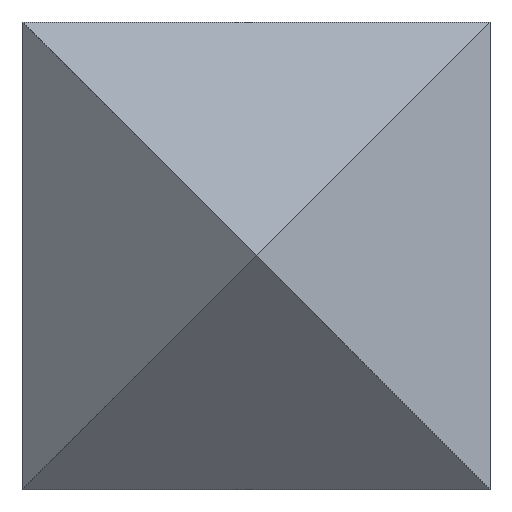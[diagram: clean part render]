
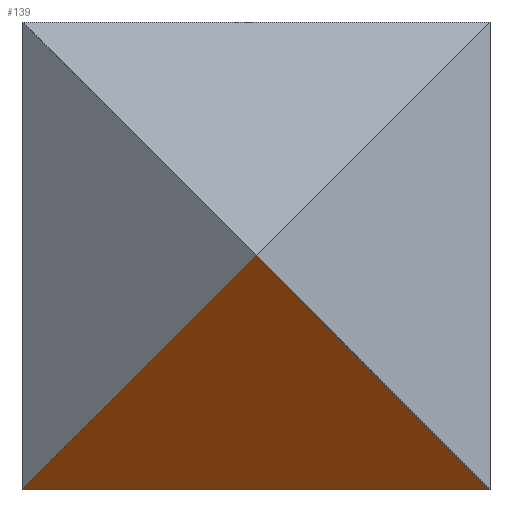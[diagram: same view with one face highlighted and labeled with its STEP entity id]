
A CAD part, top view. The second image highlights one B-rep face of the part: STEP entity #139.
In plain terms, the highlighted planar face has unit normal (0, -0.642, 0.767).
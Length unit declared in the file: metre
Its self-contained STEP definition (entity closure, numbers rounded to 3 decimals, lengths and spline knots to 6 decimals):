
#20=ORIENTED_EDGE('',*,*,#52,.F.);
#21=ORIENTED_EDGE('',*,*,#53,.T.);
#22=ORIENTED_EDGE('',*,*,#54,.F.);
#52=EDGE_CURVE('',#68,#69,#78,.T.);
#53=EDGE_CURVE('',#68,#70,#79,.T.);
#54=EDGE_CURVE('',#69,#70,#80,.T.);
#68=VERTEX_POINT('',#209);
#69=VERTEX_POINT('',#210);
#70=VERTEX_POINT('',#212);
#78=LINE('',#208,#94);
#79=LINE('',#211,#95);
#80=LINE('',#213,#96);
#94=VECTOR('',#174,1.);
#95=VECTOR('',#175,1.);
#96=VECTOR('',#176,1.);
#110=EDGE_LOOP('',(#20,#21,#22));
#120=FACE_BOUND('',#110,.T.);
#130=PLANE('',#161);
#139=ADVANCED_FACE('',(#120),#130,.T.);
#161=AXIS2_PLACEMENT_3D('',#207,#172,#173);
#172=DIRECTION('',(0.,-0.642,0.767));
#173=DIRECTION('',(0.,-0.767,-0.642));
#174=DIRECTION('',(0.608,-0.608,-0.51));
#175=DIRECTION('',(-0.608,-0.608,-0.51));
#176=DIRECTION('',(-1.,0.,0.));
#207=CARTESIAN_POINT('',(0.05,-0.025,0.020939));
#208=CARTESIAN_POINT('',(0.034254,-0.034254,0.013188));
#209=CARTESIAN_POINT('',(0.,0.,0.041878));
#210=CARTESIAN_POINT('',(0.05,-0.05,0.));
#211=CARTESIAN_POINT('',(0.002762,0.002762,0.044191));
#212=CARTESIAN_POINT('',(-0.05,-0.05,0.));
#213=CARTESIAN_POINT('',(0.05,-0.05,0.));
